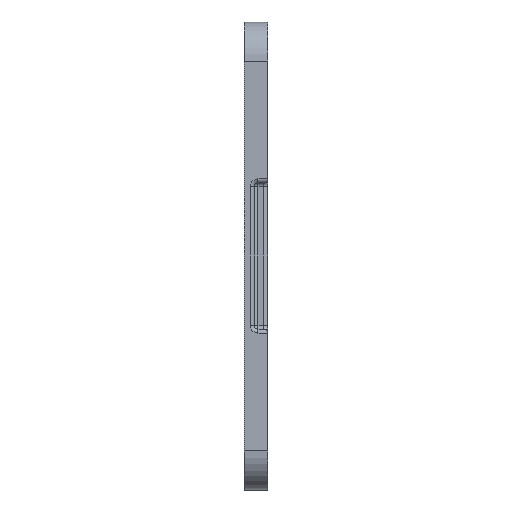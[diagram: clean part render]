
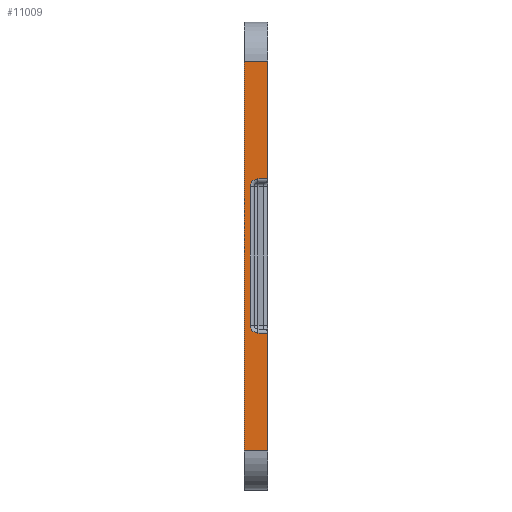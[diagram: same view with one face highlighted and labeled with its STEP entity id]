
A CAD part, left-side view. The second image highlights one B-rep face of the part: STEP entity #11009.
In plain terms, the highlighted planar face has unit normal (-1, 0, 0).
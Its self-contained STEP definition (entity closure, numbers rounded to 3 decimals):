
#375 = CARTESIAN_POINT ( 'NONE',  ( -225., 12., -120. ) ) ;
#435 = VECTOR ( 'NONE', #23747, 1000. ) ;
#662 = VERTEX_POINT ( 'NONE', #27057 ) ;
#983 = ORIENTED_EDGE ( 'NONE', *, *, #23038, .T. ) ;
#1047 = ORIENTED_EDGE ( 'NONE', *, *, #22254, .F. ) ;
#1275 = DIRECTION ( 'NONE',  ( 0., 1., 0. ) ) ;
#1347 = VERTEX_POINT ( 'NONE', #22703 ) ;
#2309 = VERTEX_POINT ( 'NONE', #15765 ) ;
#2577 = VERTEX_POINT ( 'NONE', #8229 ) ;
#3224 = VECTOR ( 'NONE', #20216, 1000. ) ;
#3592 = EDGE_CURVE ( 'NONE', #28827, #1347, #5803, .T. ) ;
#5417 = ORIENTED_EDGE ( 'NONE', *, *, #14208, .F. ) ;
#5583 = DIRECTION ( 'NONE',  ( 0., -1., 0. ) ) ;
#5803 = LINE ( 'NONE', #27784, #17175 ) ;
#5939 = CARTESIAN_POINT ( 'NONE',  ( -225., 12., -100. ) ) ;
#6199 = EDGE_CURVE ( 'NONE', #23941, #18784, #18388, .T. ) ;
#6630 = CARTESIAN_POINT ( 'NONE',  ( -225., 0., -120. ) ) ;
#6752 = AXIS2_PLACEMENT_3D ( 'NONE', #19388, #23931, #10365 ) ;
#7080 = ORIENTED_EDGE ( 'NONE', *, *, #20789, .T. ) ;
#7224 = CARTESIAN_POINT ( 'NONE',  ( -225., 5., -35.5 ) ) ;
#8182 = VERTEX_POINT ( 'NONE', #28233 ) ;
#8229 = CARTESIAN_POINT ( 'NONE',  ( -225., 9., 35.5 ) ) ;
#9258 = LINE ( 'NONE', #6630, #3224 ) ;
#9443 = LINE ( 'NONE', #16891, #20782 ) ;
#9462 = CARTESIAN_POINT ( 'NONE',  ( -225., 5., -39.5 ) ) ;
#9520 = DIRECTION ( 'NONE',  ( 0., 0., -1. ) ) ;
#9862 = CARTESIAN_POINT ( 'NONE',  ( -225., 5., 35.5 ) ) ;
#10173 = EDGE_LOOP ( 'NONE', ( #10744, #24964, #15981, #21938, #1047, #7080, #10687, #16628, #5417, #983 ) ) ;
#10365 = DIRECTION ( 'NONE',  ( 0., 0., -1. ) ) ;
#10687 = ORIENTED_EDGE ( 'NONE', *, *, #3592, .T. ) ;
#10744 = ORIENTED_EDGE ( 'NONE', *, *, #19013, .T. ) ;
#11009 = ADVANCED_FACE ( 'NONE', ( #22654 ), #14808, .F. ) ;
#11019 = EDGE_CURVE ( 'NONE', #1347, #2309, #17306, .T. ) ;
#12110 = DIRECTION ( 'NONE',  ( 0., 0., -1. ) ) ;
#12327 = VECTOR ( 'NONE', #15368, 1000. ) ;
#12442 = LINE ( 'NONE', #24046, #435 ) ;
#14208 = EDGE_CURVE ( 'NONE', #21152, #2309, #16164, .T. ) ;
#14544 = AXIS2_PLACEMENT_3D ( 'NONE', #9862, #25725, #12110 ) ;
#14808 = PLANE ( 'NONE',  #6752 ) ;
#15368 = DIRECTION ( 'NONE',  ( 0., 1., 0. ) ) ;
#15441 = EDGE_CURVE ( 'NONE', #662, #18784, #24752, .T. ) ;
#15480 = VECTOR ( 'NONE', #28667, 1000. ) ;
#15765 = CARTESIAN_POINT ( 'NONE',  ( -225., 12., 100. ) ) ;
#15981 = ORIENTED_EDGE ( 'NONE', *, *, #15441, .F. ) ;
#16025 = AXIS2_PLACEMENT_3D ( 'NONE', #7224, #23080, #9520 ) ;
#16164 = LINE ( 'NONE', #375, #22181 ) ;
#16294 = CARTESIAN_POINT ( 'NONE',  ( -225., 12., -100. ) ) ;
#16628 = ORIENTED_EDGE ( 'NONE', *, *, #11019, .T. ) ;
#16855 = CARTESIAN_POINT ( 'NONE',  ( -225., 0., -100. ) ) ;
#16891 = CARTESIAN_POINT ( 'NONE',  ( -225., 0., 39.5 ) ) ;
#17175 = VECTOR ( 'NONE', #18847, 1000. ) ;
#17306 = LINE ( 'NONE', #26205, #27971 ) ;
#17545 = CARTESIAN_POINT ( 'NONE',  ( -225., 7., -39.5 ) ) ;
#17905 = EDGE_CURVE ( 'NONE', #662, #2577, #12442, .T. ) ;
#17997 = CARTESIAN_POINT ( 'NONE',  ( -225., 0., -39.5 ) ) ;
#18388 = LINE ( 'NONE', #17545, #12327 ) ;
#18784 = VERTEX_POINT ( 'NONE', #9462 ) ;
#18847 = DIRECTION ( 'NONE',  ( 0., 0., 1. ) ) ;
#19013 = EDGE_CURVE ( 'NONE', #21337, #23941, #9258, .T. ) ;
#19388 = CARTESIAN_POINT ( 'NONE',  ( -225., 12., -120. ) ) ;
#20216 = DIRECTION ( 'NONE',  ( 0., 0., 1. ) ) ;
#20782 = VECTOR ( 'NONE', #5583, 1000. ) ;
#20789 = EDGE_CURVE ( 'NONE', #8182, #28827, #9443, .T. ) ;
#21152 = VERTEX_POINT ( 'NONE', #16294 ) ;
#21337 = VERTEX_POINT ( 'NONE', #16855 ) ;
#21938 = ORIENTED_EDGE ( 'NONE', *, *, #17905, .T. ) ;
#22174 = CARTESIAN_POINT ( 'NONE',  ( -225., 0., 39.5 ) ) ;
#22181 = VECTOR ( 'NONE', #27236, 1000. ) ;
#22215 = LINE ( 'NONE', #5939, #15480 ) ;
#22254 = EDGE_CURVE ( 'NONE', #8182, #2577, #24526, .T. ) ;
#22654 = FACE_OUTER_BOUND ( 'NONE', #10173, .T. ) ;
#22703 = CARTESIAN_POINT ( 'NONE',  ( -225., 0., 100. ) ) ;
#23038 = EDGE_CURVE ( 'NONE', #21152, #21337, #22215, .T. ) ;
#23080 = DIRECTION ( 'NONE',  ( -1., 0., 0. ) ) ;
#23747 = DIRECTION ( 'NONE',  ( 0., 0., 1. ) ) ;
#23931 = DIRECTION ( 'NONE',  ( 1., 0., 0. ) ) ;
#23941 = VERTEX_POINT ( 'NONE', #17997 ) ;
#24046 = CARTESIAN_POINT ( 'NONE',  ( -225., 9., 37.5 ) ) ;
#24526 = CIRCLE ( 'NONE', #14544, 4. ) ;
#24752 = CIRCLE ( 'NONE', #16025, 4. ) ;
#24964 = ORIENTED_EDGE ( 'NONE', *, *, #6199, .T. ) ;
#25725 = DIRECTION ( 'NONE',  ( -1., 0., 0. ) ) ;
#26205 = CARTESIAN_POINT ( 'NONE',  ( -225., 12., 100. ) ) ;
#27057 = CARTESIAN_POINT ( 'NONE',  ( -225., 9., -35.5 ) ) ;
#27236 = DIRECTION ( 'NONE',  ( 0., 0., 1. ) ) ;
#27784 = CARTESIAN_POINT ( 'NONE',  ( -225., 0., -120. ) ) ;
#27971 = VECTOR ( 'NONE', #1275, 1000. ) ;
#28233 = CARTESIAN_POINT ( 'NONE',  ( -225., 5., 39.5 ) ) ;
#28667 = DIRECTION ( 'NONE',  ( 0., -1., 0. ) ) ;
#28827 = VERTEX_POINT ( 'NONE', #22174 ) ;
